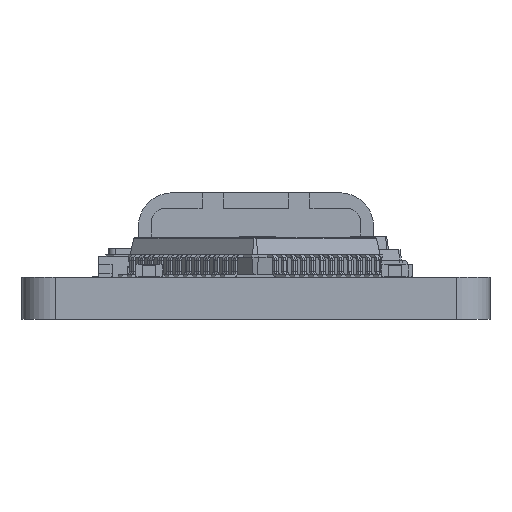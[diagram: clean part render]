
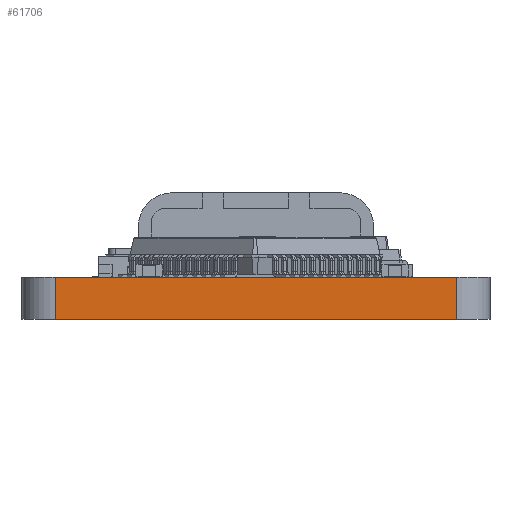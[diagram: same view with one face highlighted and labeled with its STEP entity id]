
A CAD part, front view. The second image highlights one B-rep face of the part: STEP entity #61706.
In plain terms, the highlighted planar face has unit normal (0, -1, 0).
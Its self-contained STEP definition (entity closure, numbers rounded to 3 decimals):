
#6824=FACE_OUTER_BOUND('',#10126,.T.);
#10126=EDGE_LOOP('',(#41825,#41826,#41827,#41828));
#13704=LINE('',#87223,#20451);
#13705=LINE('',#87228,#20452);
#13706=LINE('',#87232,#20453);
#13707=LINE('',#87233,#20454);
#20451=VECTOR('',#70490,1.);
#20452=VECTOR('',#70495,1.);
#20453=VECTOR('',#70502,1.);
#20454=VECTOR('',#70503,1.);
#27194=VERTEX_POINT('',#87220);
#27195=VERTEX_POINT('',#87222);
#27196=VERTEX_POINT('',#87226);
#27197=VERTEX_POINT('',#87227);
#32955=EDGE_CURVE('',#27195,#27194,#13704,.T.);
#32957=EDGE_CURVE('',#27196,#27197,#13705,.T.);
#32960=EDGE_CURVE('',#27196,#27195,#13706,.T.);
#32961=EDGE_CURVE('',#27197,#27194,#13707,.T.);
#41825=ORIENTED_EDGE('',*,*,#32957,.F.);
#41826=ORIENTED_EDGE('',*,*,#32960,.T.);
#41827=ORIENTED_EDGE('',*,*,#32955,.T.);
#41828=ORIENTED_EDGE('',*,*,#32961,.F.);
#59384=PLANE('',#65397);
#61706=ADVANCED_FACE('',(#6824),#59384,.F.);
#65397=AXIS2_PLACEMENT_3D('',#87231,#70500,#70501);
#70490=DIRECTION('',(0.,0.,-1.));
#70495=DIRECTION('',(0.,0.,-1.));
#70500=DIRECTION('center_axis',(0.,1.,0.));
#70501=DIRECTION('ref_axis',(-1.,0.,0.));
#70502=DIRECTION('',(-1.,0.,0.));
#70503=DIRECTION('',(-1.,0.,0.));
#87220=CARTESIAN_POINT('',(156.4,-117.29,-1.6));
#87222=CARTESIAN_POINT('',(156.4,-117.29,0.));
#87223=CARTESIAN_POINT('',(156.4,-117.29,0.));
#87226=CARTESIAN_POINT('',(171.64,-117.29,0.));
#87227=CARTESIAN_POINT('',(171.64,-117.29,-1.6));
#87228=CARTESIAN_POINT('',(171.64,-117.29,0.));
#87231=CARTESIAN_POINT('Origin',(171.64,-117.29,0.));
#87232=CARTESIAN_POINT('',(171.64,-117.29,0.));
#87233=CARTESIAN_POINT('',(171.64,-117.29,-1.6));
